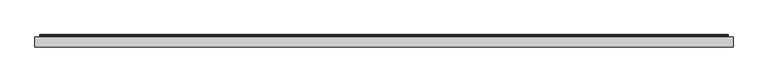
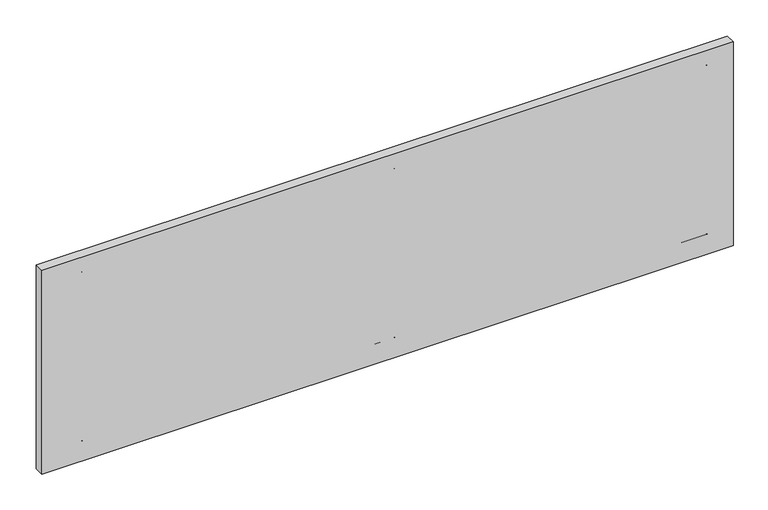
"""IFC4 building model written with IfcOpenShell, lengths in millimetres: furniture geometry, Geiger_GeigerOneCasegoods_WallTileTopTileorWallMountedFabric : RR Fabric 72Wx 1.25Dx 22.5H 2.5 yds."""

from ifc_helpers import new_model, si_unit, point, frame, frame_2d, origin, origin_with_axes, place, context, project, spatial, polyline, circle_curve, trimmed, segment, composite_curve, outline, extrude, source, transform, mapped, element, save


def furniture_b96b83bb(model_context):
    return source(origin(), model_context, "Body", "SweptSolid", [
        extrude(outline(composite_curve([segment(polyline([(3.5052, 32.2904), (3.5052, 39.2246), (2.6924, 40.012), (0.7874, 40.012), (0.0, 40.8248), (0.0, 72.524), (1.2954, 72.524), (2.8956, 70.9238), (2.8956, 46.3366), (3.7084, 45.5238), (5.588, 45.5238), (6.4008, 44.7364), (6.4008, 31.3252)]), True, "CONTINUOUS"), segment(trimmed(circle_curve(frame_2d((5.5973579, 31.3345579)), 0.8034966), [point((6.4008, 31.3252))], [point((5.0292, 30.7664))], False, "CARTESIAN"), True, "CONTINUOUS"), segment(polyline([(5.0292, 30.7664), (3.5052, 32.2904)]), True, "CONTINUOUS")], self_intersect=False)), frame((876.4, 0.0, 0.0), z_axis=(1.0, 0.0, 0.0), x_axis=(0.0, 1.0, 0.0)), (0.0, 0.0, 1.0), 76.0),
        extrude(outline(composite_curve([segment(polyline([(3.5052, 505.2864), (3.5052, 512.2206), (2.6924, 513.008), (0.7874, 513.008), (0.0, 513.8208), (0.0, 545.52), (1.2954, 545.52), (2.8956, 543.9198), (2.8956, 519.3326), (3.7084, 518.5198), (5.588, 518.5198), (6.4008, 517.7324), (6.4008, 504.3212)]), True, "CONTINUOUS"), segment(trimmed(circle_curve(frame_2d((5.5973579, 504.3305579)), 0.8034966), [point((6.4008, 504.3212))], [point((5.0292, 503.7624))], False, "CARTESIAN"), True, "CONTINUOUS"), segment(polyline([(5.0292, 503.7624), (3.5052, 505.2864)]), True, "CONTINUOUS")], self_intersect=False)), frame((876.4, 0.0, 0.0), z_axis=(1.0, 0.0, 0.0), x_axis=(0.0, 1.0, 0.0)), (0.0, 0.0, 1.0), 76.0),
        extrude(outline(composite_curve([segment(polyline([(3.5052, 32.2904), (3.5052, 39.2246), (2.6924, 40.012), (0.7874, 40.012), (0.0, 40.8248), (0.0, 72.524), (1.2954, 72.524), (2.8956, 70.9238), (2.8956, 46.3366), (3.7084, 45.5238), (5.588, 45.5238), (6.4008, 44.7364), (6.4008, 31.3252)]), True, "CONTINUOUS"), segment(trimmed(circle_curve(frame_2d((5.5973579, 31.3345579)), 0.8034966), [point((6.4008, 31.3252))], [point((5.0292, 30.7664))], False, "CARTESIAN"), True, "CONTINUOUS"), segment(polyline([(5.0292, 30.7664), (3.5052, 32.2904)]), True, "CONTINUOUS")], self_intersect=False)), frame((876.4, 0.0, 0.0), z_axis=(1.0, 0.0, 0.0), x_axis=(0.0, 1.0, 0.0)), (0.0, 0.0, 1.0), 76.0),
        extrude(outline(composite_curve([segment(polyline([(3.5052, 505.2864), (3.5052, 512.2206), (2.6924, 513.008), (0.7874, 513.008), (0.0, 513.8208), (0.0, 545.52), (1.2954, 545.52), (2.8956, 543.9198), (2.8956, 519.3326), (3.7084, 518.5198), (5.588, 518.5198), (6.4008, 517.7324), (6.4008, 504.3212)]), True, "CONTINUOUS"), segment(trimmed(circle_curve(frame_2d((5.5973579, 504.3305579)), 0.8034966), [point((6.4008, 504.3212))], [point((5.0292, 503.7624))], False, "CARTESIAN"), True, "CONTINUOUS"), segment(polyline([(5.0292, 503.7624), (3.5052, 505.2864)]), True, "CONTINUOUS")], self_intersect=False)), frame((876.4, 0.0, 0.0), z_axis=(1.0, 0.0, 0.0), x_axis=(0.0, 1.0, 0.0)), (0.0, 0.0, 1.0), 76.0),
        extrude(outline(composite_curve([segment(polyline([(2.8948, 38.2316), (2.8948, 31.2974), (3.7076, 30.51), (5.6126, 30.51), (6.4, 29.6972), (6.4, -2.002), (5.1046, -2.002), (3.5044, -0.4018), (3.5044, 24.1854), (2.6916, 24.9982), (0.812, 24.9982), (-0.0008, 25.7856), (-0.0008, 39.1968)]), True, "CONTINUOUS"), segment(trimmed(circle_curve(frame_2d((0.8026421, 39.1874421)), 0.8034966), [point((-0.0008, 39.1968))], [point((1.3708, 39.7556))], False, "CARTESIAN"), True, "CONTINUOUS"), segment(polyline([(1.3708, 39.7556), (2.8948, 38.2316)]), True, "CONTINUOUS")], self_intersect=False)), frame((12.5, 0.0, 0.0), z_axis=(1.0, 0.0, 0.0), x_axis=(0.0, 1.0, 0.0)), (0.0, 0.0, 1.0), 1803.8),
        extrude(outline(composite_curve([segment(polyline([(3.5052, 32.2904), (3.5052, 39.2246), (2.6924, 40.012), (0.7874, 40.012), (0.0, 40.8248), (0.0, 72.524), (1.2954, 72.524), (2.8956, 70.9238), (2.8956, 46.3366), (3.7084, 45.5238), (5.588, 45.5238), (6.4008, 44.7364), (6.4008, 31.3252)]), True, "CONTINUOUS"), segment(trimmed(circle_curve(frame_2d((5.5973579, 31.3345579)), 0.8034966), [point((6.4008, 31.3252))], [point((5.0292, 30.7664))], False, "CARTESIAN"), True, "CONTINUOUS"), segment(polyline([(5.0292, 30.7664), (3.5052, 32.2904)]), True, "CONTINUOUS")], self_intersect=False)), frame((50.0, 0.0, 0.0), z_axis=(1.0, 0.0, 0.0), x_axis=(0.0, 1.0, 0.0)), (0.0, 0.0, 1.0), 76.0),
        extrude(outline(composite_curve([segment(polyline([(2.8956, 46.3366), (3.7084, 45.5238), (5.588, 45.5238), (6.4008, 44.7364), (6.4008, 31.3252)]), True, "CONTINUOUS"), segment(trimmed(circle_curve(frame_2d((5.5973579, 31.3345579)), 0.8034966), [point((6.4008, 31.3252))], [point((5.0292, 30.7664))], False, "CARTESIAN"), True, "CONTINUOUS"), segment(polyline([(5.0292, 30.7664), (3.5052, 32.2904), (3.5052, 39.2246), (2.6924, 40.012), (0.7874, 40.012), (0.0, 40.8248), (0.0, 72.524), (1.2954, 72.524), (2.8956, 70.9238), (2.8956, 46.3366)]), True, "CONTINUOUS")], self_intersect=False)), frame((1702.8, 0.0, 0.0), z_axis=(1.0, 0.0, 0.0), x_axis=(0.0, 1.0, 0.0)), (0.0, 0.0, 1.0), 76.0),
        extrude(outline(composite_curve([segment(polyline([(2.8956, 519.3326), (3.7084, 518.5198), (5.588, 518.5198), (6.4008, 517.7324), (6.4008, 504.3212)]), True, "CONTINUOUS"), segment(trimmed(circle_curve(frame_2d((5.5973579, 504.3305579)), 0.8034966), [point((6.4008, 504.3212))], [point((5.0292, 503.7624))], False, "CARTESIAN"), True, "CONTINUOUS"), segment(polyline([(5.0292, 503.7624), (3.5052, 505.2864), (3.5052, 512.2206), (2.6924, 513.008), (0.7874, 513.008), (0.0, 513.8208), (0.0, 545.52), (1.2954, 545.52), (2.8956, 543.9198), (2.8956, 519.3326)]), True, "CONTINUOUS")], self_intersect=False)), frame((1702.8, 0.0, 0.0), z_axis=(1.0, 0.0, 0.0), x_axis=(0.0, 1.0, 0.0)), (0.0, 0.0, 1.0), 76.0),
        extrude(outline(composite_curve([segment(polyline([(3.5052, 505.2864), (3.5052, 512.2206), (2.6924, 513.008), (0.7874, 513.008), (0.0, 513.8208), (0.0, 545.52), (1.2954, 545.52), (2.8956, 543.9198), (2.8956, 519.3326), (3.7084, 518.5198), (5.588, 518.5198), (6.4008, 517.7324), (6.4008, 504.3212)]), True, "CONTINUOUS"), segment(trimmed(circle_curve(frame_2d((5.5973579, 504.3305579)), 0.8034966), [point((6.4008, 504.3212))], [point((5.0292, 503.7624))], False, "CARTESIAN"), True, "CONTINUOUS"), segment(polyline([(5.0292, 503.7624), (3.5052, 505.2864)]), True, "CONTINUOUS")], self_intersect=False)), frame((50.0, 0.0, 0.0), z_axis=(1.0, 0.0, 0.0), x_axis=(0.0, 1.0, 0.0)), (0.0, 0.0, 1.0), 76.0),
        extrude(outline(composite_curve([segment(polyline([(2.8948, 511.2418), (2.8948, 504.3076), (3.7076, 503.5202), (5.6126, 503.5202), (6.4, 502.7074), (6.4, 471.0082), (5.1046, 471.0082), (3.5044, 472.6084), (3.5044, 497.1956), (2.6916, 498.0084), (0.812, 498.0084), (-0.0008, 498.7958), (-0.0008, 512.207)]), True, "CONTINUOUS"), segment(trimmed(circle_curve(frame_2d((0.8026421, 512.1976421)), 0.8034966), [point((-0.0008, 512.207))], [point((1.3708, 512.7658))], False, "CARTESIAN"), True, "CONTINUOUS"), segment(polyline([(1.3708, 512.7658), (2.8948, 511.2418)]), True, "CONTINUOUS")], self_intersect=False)), frame((12.5, 0.0, 0.0), z_axis=(1.0, 0.0, 0.0), x_axis=(0.0, 1.0, 0.0)), (0.0, 0.0, 1.0), 1803.8),
        extrude(outline(polyline([(1828.8, 0.0), (1828.8, -26.0), (0.0, -26.0), (0.0, 0.0), (1828.8, 0.0)])), origin_with_axes(), (0.0, 0.0, 1.0), 570.5),
    ])


if __name__ == "__main__":
    model = new_model("IFC4")
    model_context = context("Model", 3, world=origin())
    ifc_project = project(units=[si_unit("LENGTHUNIT", "METRE", prefix="MILLI")], contexts=[model_context])
    site = spatial("IfcSite", under=ifc_project)
    building = spatial("IfcBuilding", under=site)
    placement = place(None, origin())
    furniture_shape = furniture_b96b83bb(model_context)
    element("IfcFurniture", 1, ObjectType="Geiger_GeigerOneCasegoods_WallTileTopTileorWallMountedFabric : RR Fabric 72Wx 1.25Dx 22.5H 2.5 yds", at=placement, inside=building, context=model_context, shape_type="MappedRepresentation", body=[
        mapped(furniture_shape, transform((0.0, 0.0, 0.0), x_axis=(1.0, 0.0, 0.0), y_axis=(0.0, 1.0, 0.0), z_axis=(0.0, 0.0, 1.0))),
    ])
    save(model, "model.ifc")
